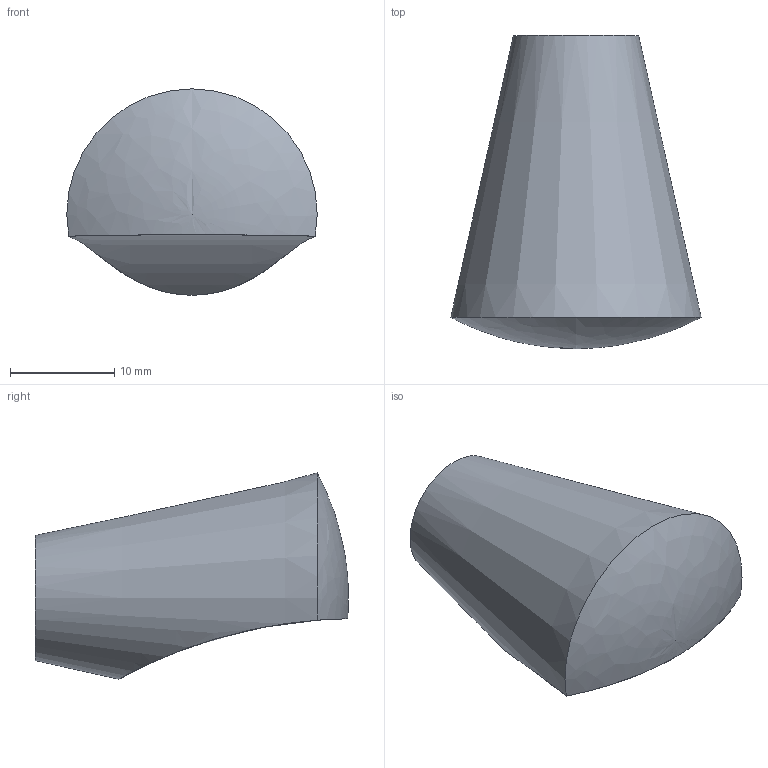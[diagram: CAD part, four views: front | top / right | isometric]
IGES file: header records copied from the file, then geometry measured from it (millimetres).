
Start section: Data from Parasolid IGES Translator 15.0.47, Copyright(c) 2006 Siemens P LM Software. All Rights Reserved.
Global section: file name: 9071857.igs; native system:  By UGS Corp.; preprocessor: XPlus GENERIC/IGES 3.0; author: Noname; organization: Noname; date: 20140122.174444; units: millimetre
Bounding box: 24 x 30 x 19.78 mm (x, y, z)
Surface area: 2025.1 mm2 (no closed solid volume)
Topology: 0 solids, 0 shells, 6 faces, 23 edges, 19 vertices
Faces by surface type: revolution 4, extrusion 2
